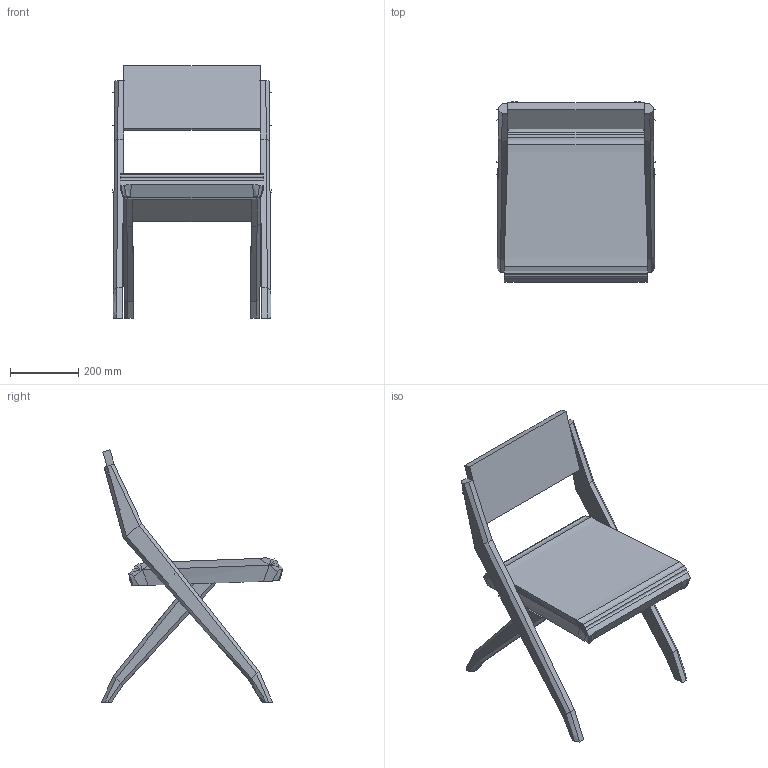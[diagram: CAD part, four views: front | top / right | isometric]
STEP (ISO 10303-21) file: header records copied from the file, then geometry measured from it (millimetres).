
FILE_DESCRIPTION(/* description */ (''),/* implementation_level */ '2;1');
FILE_NAME(/* name */ 'kinoshita_coccole_c129',/* time_stamp */ '2026-09-24T15:04:10+09:00',/* author */ (''),/* organization */ (''),/* preprocessor_version */ 'ST-DEVELOPER v16.5',/* originating_system */ '',/* authorisation */ '');
FILE_SCHEMA (('AUTOMOTIVE_DESIGN'));
Length unit declared in the file: millimetre
Products named in the file (1): Document
Bounding box: 467.1 x 529.58 x 736.91 mm (x, y, z)
Volume: 24429053.1 mm3; surface area: 1187142.2 mm2
Topology: 4 solids, 5 shells, 218 faces, 521 edges, 308 vertices
Faces by surface type: bspline 174, plane 44
Entity records: 36099 total; most frequent: CARTESIAN_POINT 32670, ORIENTED_EDGE 1022, EDGE_CURVE 513, B_SPLINE_CURVE_WITH_KNOTS 481, VERTEX_POINT 308, EDGE_LOOP 222, ADVANCED_FACE 218, FACE_OUTER_BOUND 218
